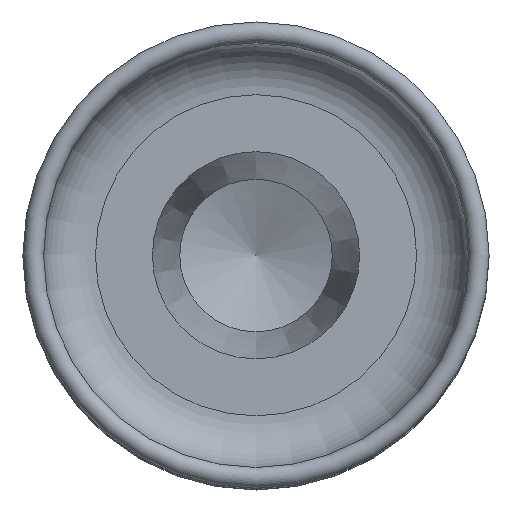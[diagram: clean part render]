
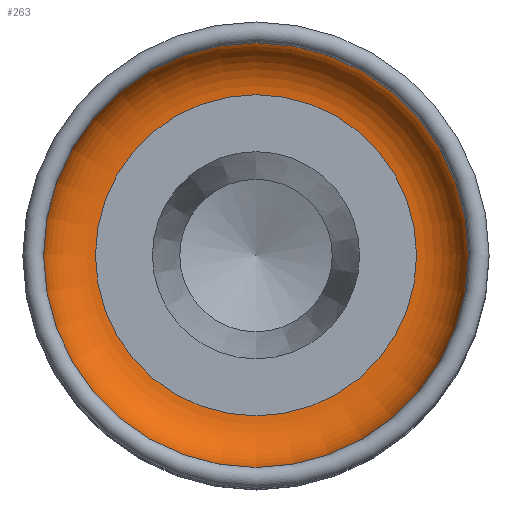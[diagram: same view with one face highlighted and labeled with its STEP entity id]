
A CAD part, top view. The second image highlights one B-rep face of the part: STEP entity #263.
In plain terms, the highlighted toroidal (fillet/blend) face has major radius 15.5 mm and minor radius 5 mm.
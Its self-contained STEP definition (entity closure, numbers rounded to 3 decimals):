
#236=CARTESIAN_POINT('',(-155.038,-4.553,155.464));
#237=DIRECTION('',(0.,0.,1.0));
#238=DIRECTION('',(0.985,0.174,0.0));
#239=AXIS2_PLACEMENT_3D('',#236,#237,#238);
#240=TOROIDAL_SURFACE('',#239,15.5,5.0);
#241=CARTESIAN_POINT('',(-134.849,-0.993,155.464));
#242=VERTEX_POINT('',#241);
#243=CARTESIAN_POINT('',(-155.038,-4.553,155.464));
#244=DIRECTION('',(0.,0.,-1.0));
#245=DIRECTION('',(0.985,0.174,0.));
#246=AXIS2_PLACEMENT_3D('',#243,#244,#245);
#247=CIRCLE('',#246,20.5);
#248=EDGE_CURVE('',#242,#242,#247,.T.);
#249=ORIENTED_EDGE('',*,*,#248,.F.);
#250=EDGE_LOOP('',(#249));
#251=FACE_BOUND('',#250,.T.);
#252=CARTESIAN_POINT('',(-170.302,-7.245,150.464));
#253=VERTEX_POINT('',#252);
#254=CARTESIAN_POINT('',(-155.038,-4.553,150.464));
#255=DIRECTION('',(0.,0.,1.0));
#256=DIRECTION('',(-0.985,-0.174,0.));
#257=AXIS2_PLACEMENT_3D('',#254,#255,#256);
#258=CIRCLE('',#257,15.5);
#259=EDGE_CURVE('',#253,#253,#258,.T.);
#260=ORIENTED_EDGE('',*,*,#259,.F.);
#261=EDGE_LOOP('',(#260));
#262=FACE_BOUND('',#261,.T.);
#263=ADVANCED_FACE('',(#251,#262),#240,.F.);
